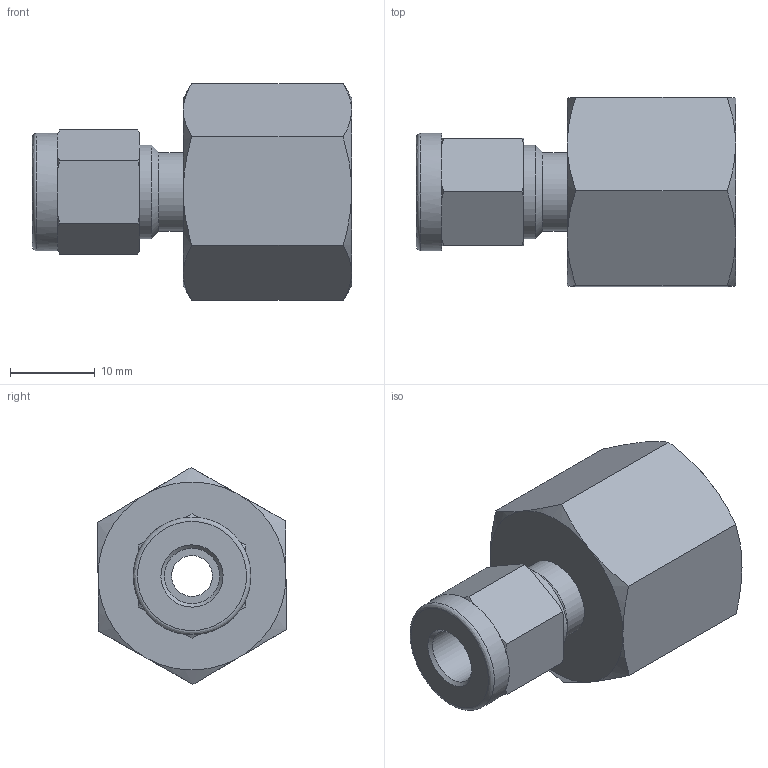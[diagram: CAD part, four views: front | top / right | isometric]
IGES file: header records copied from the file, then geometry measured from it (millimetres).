
Global section: file name: SFC-4-6N; native system: Autodesk Inventor 2016; preprocessor: unknown; author: 배성훈,,11,0; organization: 20151010.022010; date: 20151019.102140; units: millimetre
Bounding box: 37.74 x 22.33 x 25.66 mm (x, y, z)
Volume: 7285.7 mm3; surface area: 4233 mm2
Topology: 1 solids, 1 shells, 60 faces, 160 edges, 106 vertices
Faces by surface type: bspline 60
